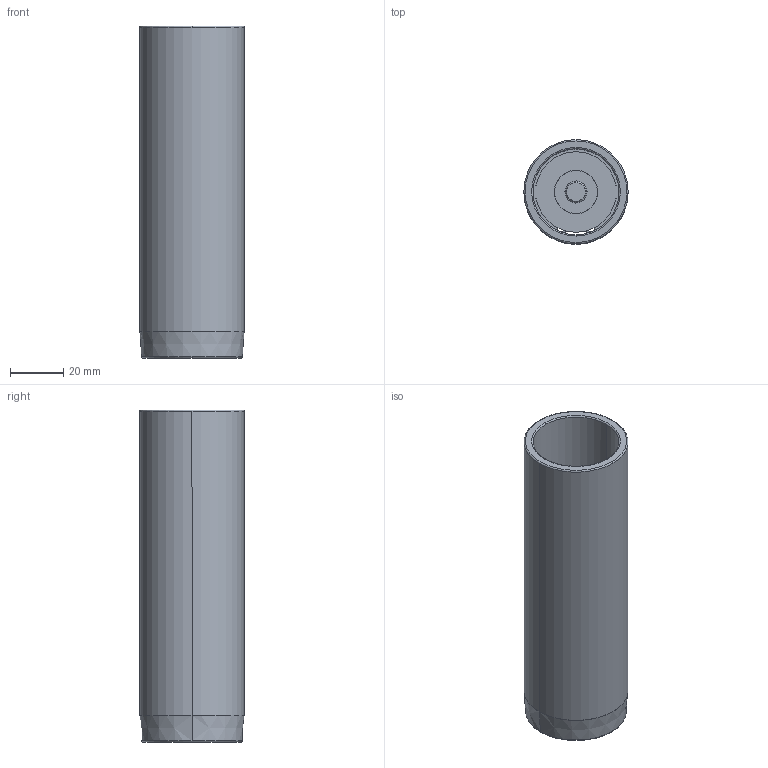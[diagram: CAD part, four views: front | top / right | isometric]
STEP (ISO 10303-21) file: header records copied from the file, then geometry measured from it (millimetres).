
FILE_DESCRIPTION((''),'2;1');
FILE_NAME('C12_032_125.stp','2009-01-28T09:50:34',(''),(''),'Mechanical Desktop 2009','Mechanical Desktop 2009',', , ');
FILE_SCHEMA(('CONFIG_CONTROL_DESIGN'));
Length unit declared in the file: millimetre
Products named in the file (2): Product; blmdl1
Assembly tree (1 placements, depth 2):
  Product
    blmdl1
Bounding box: 39.25 x 39.25 x 125 mm (x, y, z)
Volume: 51004.2 mm3; surface area: 33540.9 mm2
Topology: 5 solids, 5 shells, 79 faces, 200 edges, 134 vertices
Faces by surface type: cylinder 34, plane 29, torus 10, cone 6
Entity records: 2585 total; most frequent: DIRECTION 480, CARTESIAN_POINT 435, ORIENTED_EDGE 400, AXIS2_PLACEMENT_3D 203, EDGE_CURVE 200, VERTEX_POINT 134, CIRCLE 122, EDGE_LOOP 92
